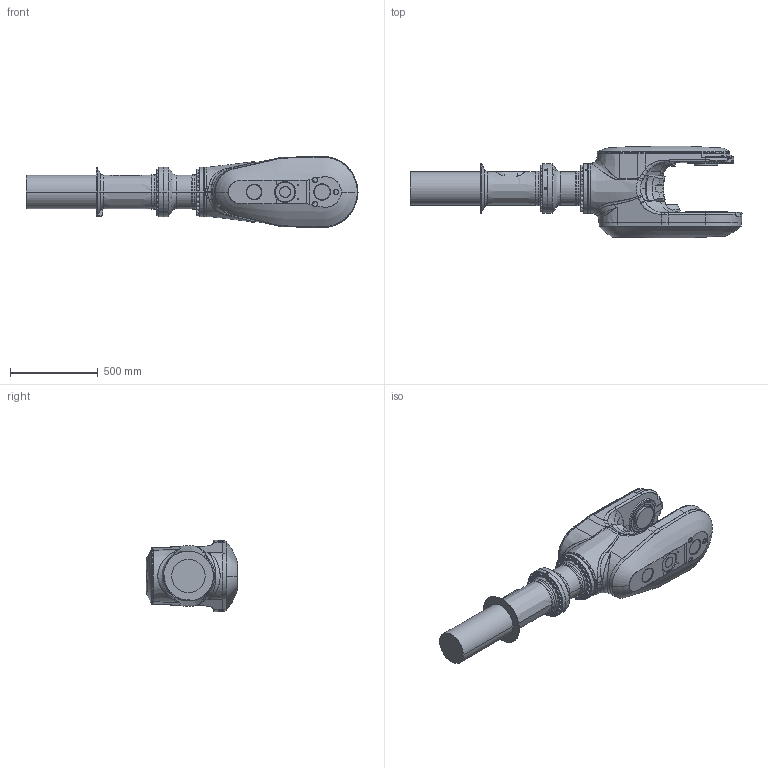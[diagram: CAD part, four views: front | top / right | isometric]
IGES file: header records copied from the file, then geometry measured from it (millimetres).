
Start section: SolidWorks IGES file using analytic representation for surfaces
Global section: file name: C:\Users\SEJAOLS6\OneDrive - ABB\Documents\SAP\7720\7720_Lightweight_models\IRB7720-MH3_530kg-310_OC_01_SW_J\IRB7710-MH3_530kg-310_OC_01_IGES_J\IRB7720_All-310_OC_00_LINK04_CAD.igs; native system: SolidWorks 2024; preprocessor: SolidWorks 2024; author: SEJAOLS6; date: 260127.082957; units: millimetre
Bounding box: 1888.54 x 520.5 x 406.41 mm (x, y, z)
Surface area: 2337701.5 mm2 (no closed solid volume)
Topology: 0 solids, 0 shells, 845 faces, 15331 edges, 15307 vertices
Faces by surface type: revolution 439, bspline 406
